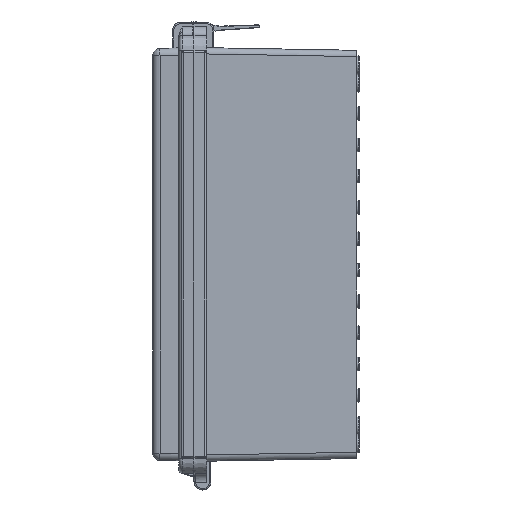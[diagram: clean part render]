
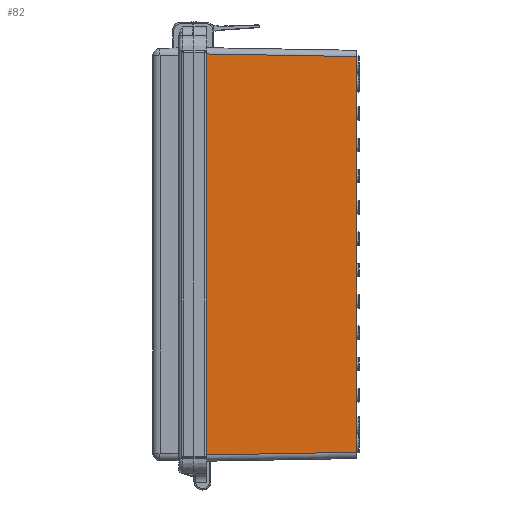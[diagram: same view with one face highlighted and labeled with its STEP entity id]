
A CAD part, left-side view. The second image highlights one B-rep face of the part: STEP entity #82.
In plain terms, the highlighted planar face has unit normal (-1, -0.018, 0).
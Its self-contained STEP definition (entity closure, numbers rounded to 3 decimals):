
#82 = ADVANCED_FACE ( 'NONE', ( #35705 ), #34713, .T. ) ;
#5574 = EDGE_LOOP ( 'NONE', ( #12496, #12497, #12498, #12499 ) ) ;
#10009 = EDGE_CURVE ( 'NONE', #55163, #55164, #61671, .T. ) ;
#10110 = EDGE_CURVE ( 'NONE', #54553, #55164, #61723, .T. ) ;
#10149 = EDGE_CURVE ( 'NONE', #55192, #54553, #61730, .T. ) ;
#10179 = EDGE_CURVE ( 'NONE', #55163, #55192, #65155, .T. ) ;
#12496 = ORIENTED_EDGE ( 'NONE', *, *, #10009, .F. ) ;
#12497 = ORIENTED_EDGE ( 'NONE', *, *, #10179, .T. ) ;
#12498 = ORIENTED_EDGE ( 'NONE', *, *, #10149, .T. ) ;
#12499 = ORIENTED_EDGE ( 'NONE', *, *, #10110, .T. ) ;
#28953 = AXIS2_PLACEMENT_3D ( 'NONE', #34762, #34781, #34782 ) ;
#34713 = PLANE ( 'NONE',  #28953 ) ;
#34762 = CARTESIAN_POINT ( 'NONE',  ( -8.471, 0., -6.503 ) ) ;
#34781 = DIRECTION ( 'NONE',  ( -1., -0.017, 0. ) ) ;
#34782 = DIRECTION ( 'NONE',  ( 0.017, -1., 0. ) ) ;
#35705 = FACE_OUTER_BOUND ( 'NONE', #5574, .T. ) ;
#53633 = CARTESIAN_POINT ( 'NONE',  ( -8.382, -5.113, 6.217 ) ) ;
#54243 = CARTESIAN_POINT ( 'NONE',  ( -8.465, -0.394, -6.299 ) ) ;
#54244 = CARTESIAN_POINT ( 'NONE',  ( -8.465, -0.394, 6.299 ) ) ;
#54272 = CARTESIAN_POINT ( 'NONE',  ( -8.382, -5.113, -6.217 ) ) ;
#54553 = VERTEX_POINT ( 'NONE', #53633 ) ;
#55163 = VERTEX_POINT ( 'NONE', #54243 ) ;
#55164 = VERTEX_POINT ( 'NONE', #54244 ) ;
#55192 = VERTEX_POINT ( 'NONE', #54272 ) ;
#61671 = LINE ( 'NONE', #64471, #61673 ) ;
#61673 = VECTOR ( 'NONE', #64478, 39.37 ) ;
#61723 = LINE ( 'NONE', #64604, #61725 ) ;
#61725 = VECTOR ( 'NONE', #64611, 39.37 ) ;
#61730 = LINE ( 'NONE', #64647, #65145 ) ;
#64471 = CARTESIAN_POINT ( 'NONE',  ( -8.465, -0.394, -6.503 ) ) ;
#64478 = DIRECTION ( 'NONE',  ( 0., 0., 1. ) ) ;
#64604 = CARTESIAN_POINT ( 'NONE',  ( -8.468, -0.223, 6.302 ) ) ;
#64611 = DIRECTION ( 'NONE',  ( -0.017, 1., 0.017 ) ) ;
#64647 = CARTESIAN_POINT ( 'NONE',  ( -8.382, -5.113, 6.217 ) ) ;
#64655 = DIRECTION ( 'NONE',  ( 0., 0., 1. ) ) ;
#64690 = CARTESIAN_POINT ( 'NONE',  ( -8.472, 0.003, -6.306 ) ) ;
#64694 = DIRECTION ( 'NONE',  ( 0.017, -1., 0.017 ) ) ;
#65145 = VECTOR ( 'NONE', #64655, 39.37 ) ;
#65155 = LINE ( 'NONE', #64690, #65158 ) ;
#65158 = VECTOR ( 'NONE', #64694, 39.37 ) ;
